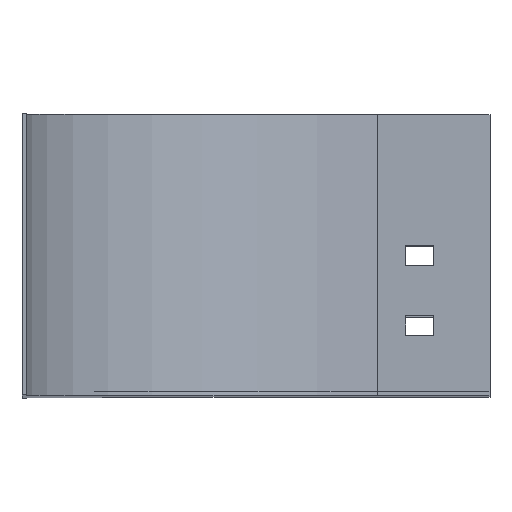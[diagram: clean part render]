
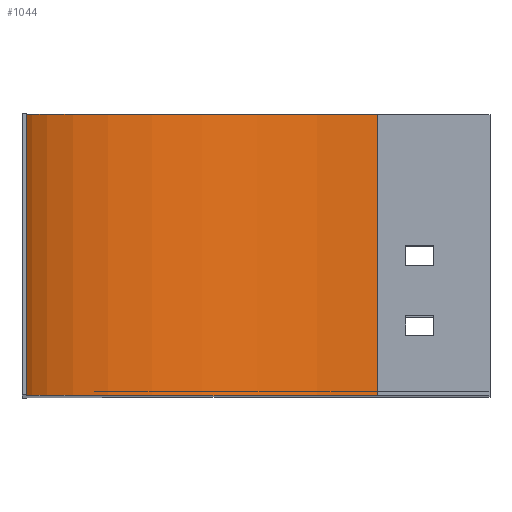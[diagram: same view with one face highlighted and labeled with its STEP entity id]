
A CAD part, top view. The second image highlights one B-rep face of the part: STEP entity #1044.
In plain terms, the highlighted cylindrical face has radius 125 mm (diameter 250 mm), a partial arc.
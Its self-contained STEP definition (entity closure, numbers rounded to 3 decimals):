
#6 = DIRECTION ( 'NONE',  ( 0., -1., 0. ) ) ;
#28 = CARTESIAN_POINT ( 'NONE',  ( -125., 100., 0. ) ) ;
#32 = LINE ( 'NONE', #1600, #635 ) ;
#74 = VERTEX_POINT ( 'NONE', #1199 ) ;
#84 = CARTESIAN_POINT ( 'NONE',  ( 0., 100., -125. ) ) ;
#185 = DIRECTION ( 'NONE',  ( 0., -1., 0. ) ) ;
#206 = CIRCLE ( 'NONE', #1234, 125. ) ;
#234 = VERTEX_POINT ( 'NONE', #84 ) ;
#278 = CARTESIAN_POINT ( 'NONE',  ( 0., 0., 0. ) ) ;
#290 = CARTESIAN_POINT ( 'NONE',  ( 0., 100., 0. ) ) ;
#315 = CYLINDRICAL_SURFACE ( 'NONE', #992, 125. ) ;
#363 = VERTEX_POINT ( 'NONE', #1027 ) ;
#411 = LINE ( 'NONE', #28, #770 ) ;
#433 = ORIENTED_EDGE ( 'NONE', *, *, #1408, .F. ) ;
#470 = DIRECTION ( 'NONE',  ( 0., 0., -1. ) ) ;
#635 = VECTOR ( 'NONE', #1198, 1000. ) ;
#644 = DIRECTION ( 'NONE',  ( 0., -1., 0. ) ) ;
#687 = CIRCLE ( 'NONE', #1649, 125. ) ;
#733 = VERTEX_POINT ( 'NONE', #1052 ) ;
#770 = VECTOR ( 'NONE', #644, 1000. ) ;
#790 = DIRECTION ( 'NONE',  ( 0., 0., -1. ) ) ;
#819 = CARTESIAN_POINT ( 'NONE',  ( 0., 100., 0. ) ) ;
#868 = ORIENTED_EDGE ( 'NONE', *, *, #1648, .T. ) ;
#889 = ORIENTED_EDGE ( 'NONE', *, *, #1604, .F. ) ;
#992 = AXIS2_PLACEMENT_3D ( 'NONE', #819, #185, #470 ) ;
#1027 = CARTESIAN_POINT ( 'NONE',  ( 0., 0., -125. ) ) ;
#1030 = DIRECTION ( 'NONE',  ( 0., 0., -1. ) ) ;
#1044 = ADVANCED_FACE ( 'NONE', ( #1237 ), #315, .F. ) ;
#1052 = CARTESIAN_POINT ( 'NONE',  ( -125., 0., 0. ) ) ;
#1115 = EDGE_LOOP ( 'NONE', ( #1584, #433, #889, #868 ) ) ;
#1198 = DIRECTION ( 'NONE',  ( 0., -1., 0. ) ) ;
#1199 = CARTESIAN_POINT ( 'NONE',  ( -125., 100., 0. ) ) ;
#1234 = AXIS2_PLACEMENT_3D ( 'NONE', #290, #1304, #1030 ) ;
#1237 = FACE_OUTER_BOUND ( 'NONE', #1115, .T. ) ;
#1304 = DIRECTION ( 'NONE',  ( 0., -1., 0. ) ) ;
#1408 = EDGE_CURVE ( 'NONE', #234, #363, #32, .T. ) ;
#1584 = ORIENTED_EDGE ( 'NONE', *, *, #1678, .T. ) ;
#1600 = CARTESIAN_POINT ( 'NONE',  ( 0., 100., -125. ) ) ;
#1604 = EDGE_CURVE ( 'NONE', #74, #234, #206, .T. ) ;
#1648 = EDGE_CURVE ( 'NONE', #74, #733, #411, .T. ) ;
#1649 = AXIS2_PLACEMENT_3D ( 'NONE', #278, #6, #790 ) ;
#1678 = EDGE_CURVE ( 'NONE', #733, #363, #687, .T. ) ;
